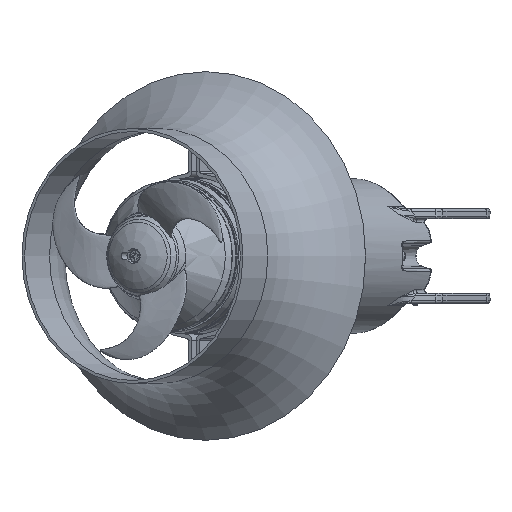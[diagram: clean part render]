
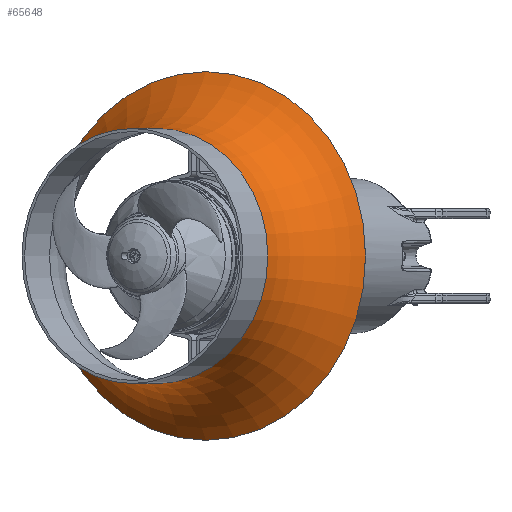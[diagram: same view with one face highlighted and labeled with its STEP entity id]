
A CAD part, left-side view. The second image highlights one B-rep face of the part: STEP entity #65648.
In plain terms, the highlighted toroidal (fillet/blend) face has major radius 239.69 mm and minor radius 111.69 mm.
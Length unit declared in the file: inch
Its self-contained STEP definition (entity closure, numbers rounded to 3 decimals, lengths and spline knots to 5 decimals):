
#4149 = TOROIDAL_SURFACE ( 'NONE', #59918, 9.43663, 4.39726 ) ;
#7879 = CARTESIAN_POINT ( 'NONE',  ( -9.78941, 11.32514, -0.24288 ) ) ;
#7880 = CARTESIAN_POINT ( 'NONE',  ( -9.78941, 11.32514, 4.79649 ) ) ;
#8531 = EDGE_LOOP ( 'NONE', ( #21559 ) ) ;
#9421 = EDGE_LOOP ( 'NONE', ( #14074 ) ) ;
#11462 = DIRECTION ( 'NONE',  ( -0.866, 0.5, 0. ) ) ;
#14074 = ORIENTED_EDGE ( 'NONE', *, *, #48683, .F. ) ;
#18097 = DIRECTION ( 'NONE',  ( -0.866, 0.5, 0. ) ) ;
#21559 = ORIENTED_EDGE ( 'NONE', *, *, #23238, .T. ) ;
#23238 = EDGE_CURVE ( 'NONE', #30366, #30366, #25361, .T. ) ;
#25361 = CIRCLE ( 'NONE', #61116, 7.28346 ) ;
#30366 = VERTEX_POINT ( 'NONE', #59155 ) ;
#31181 = VERTEX_POINT ( 'NONE', #7880 ) ;
#31235 = FACE_OUTER_BOUND ( 'NONE', #8531, .T. ) ;
#33545 = DIRECTION ( 'NONE',  ( 0., 0., 1. ) ) ;
#40020 = CIRCLE ( 'NONE', #46898, 5.03937 ) ;
#42018 = CARTESIAN_POINT ( 'NONE',  ( -9.78941, 11.32514, -0.24288 ) ) ;
#46898 = AXIS2_PLACEMENT_3D ( 'NONE', #42018, #11462, #47127 ) ;
#47127 = DIRECTION ( 'NONE',  ( 0., 0., 1. ) ) ;
#48596 = CARTESIAN_POINT ( 'NONE',  ( -6.46905, 9.40813, -0.24288 ) ) ;
#48677 = DIRECTION ( 'NONE',  ( -0.866, 0.5, 0. ) ) ;
#48683 = EDGE_CURVE ( 'NONE', #31181, #31181, #40020, .T. ) ;
#53656 = DIRECTION ( 'NONE',  ( 0., 0., 1. ) ) ;
#56656 = FACE_OUTER_BOUND ( 'NONE', #9421, .T. ) ;
#59155 = CARTESIAN_POINT ( 'NONE',  ( -6.46905, 9.40813, 7.04058 ) ) ;
#59918 = AXIS2_PLACEMENT_3D ( 'NONE', #7879, #48677, #33545 ) ;
#61116 = AXIS2_PLACEMENT_3D ( 'NONE', #48596, #18097, #53656 ) ;
#65648 = ADVANCED_FACE ( 'NONE', ( #31235, #56656 ), #4149, .F. ) ;
